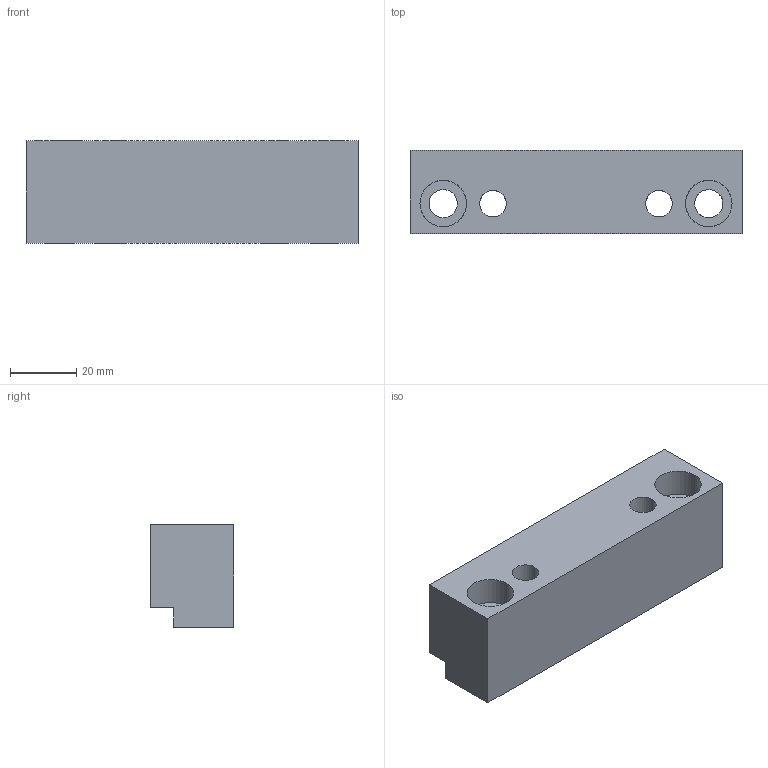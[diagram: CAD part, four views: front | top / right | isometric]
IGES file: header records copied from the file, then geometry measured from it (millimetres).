
Start section: START RECORD GO HERE.
Global section: file name: G40631100.igs; native system: DASSAULT SYSTEMES CATIA V5 R20 - www.3ds.com; preprocessor: CATIA Version 5 Release 20 ; author: r.borello; organization: CFTORINO; date: 20190624.150804; units: millimetre
Bounding box: 100 x 25 x 31 mm (x, y, z)
Surface area: 19033.9 mm2 (no closed solid volume)
Topology: 0 solids, 0 shells, 372 faces, 1570 edges, 1392 vertices
Faces by surface type: revolution 324, plane 48
